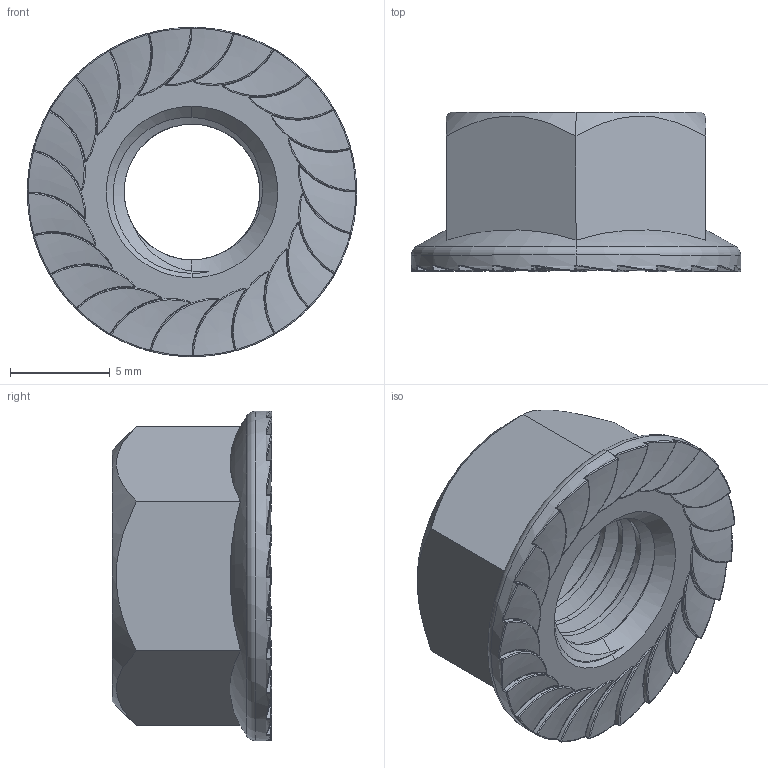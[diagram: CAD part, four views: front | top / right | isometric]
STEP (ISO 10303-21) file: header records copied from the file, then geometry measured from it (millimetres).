
FILE_DESCRIPTION (( 'STEP AP203' ), '1' );
FILE_NAME ('TANLD-304-M8.STEP', '2026-08-25T06:58:03', ( '' ), ( '' ), 'SwSTEP 2.0', 'SolidWorks 2020', '' );
FILE_SCHEMA (( 'CONFIG_CONTROL_DESIGN' ));
Length unit declared in the file: millimetre
Products named in the file (1): TANLD-304-M8
Bounding box: 16.5 x 7.99 x 16.5 mm (x, y, z)
Volume: 876.9 mm3; surface area: 939.4 mm2
Topology: 1 solids, 1 shells, 215 faces, 631 edges, 394 vertices
Faces by surface type: cylinder 97, bspline 75, sphere 24, plane 8, cone 7, torus 4
Entity records: 13348 total; most frequent: CARTESIAN_POINT 8701, ORIENTED_EDGE 1118, DIRECTION 777, EDGE_CURVE 559, AXIS2_PLACEMENT_3D 346, VERTEX_POINT 346, B_SPLINE_CURVE_WITH_KNOTS 256, EDGE_LOOP 217
